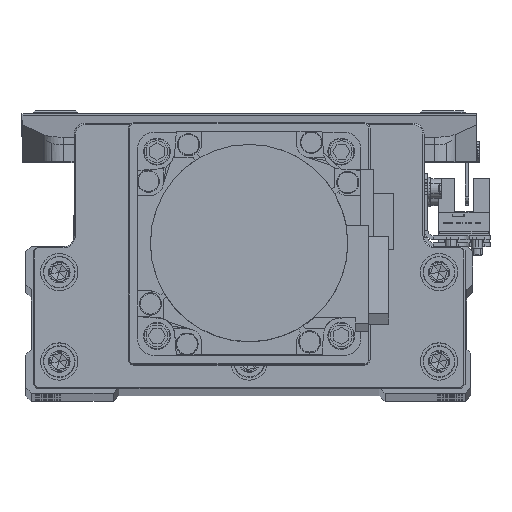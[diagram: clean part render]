
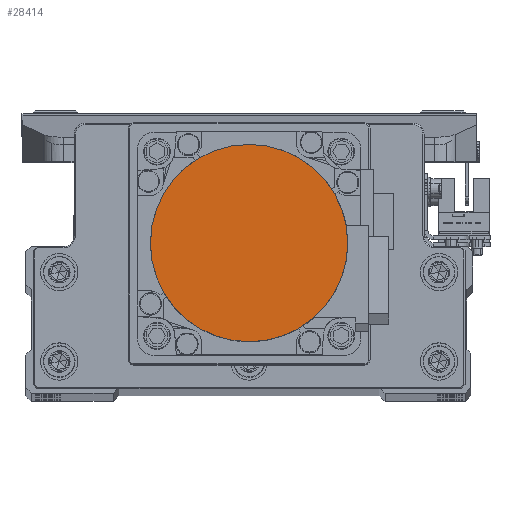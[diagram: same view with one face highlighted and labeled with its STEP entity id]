
A CAD part, top view. The second image highlights one B-rep face of the part: STEP entity #28414.
In plain terms, the highlighted planar face has unit normal (0, 0, 1) as drawn and (0, 0, -1) by its records, which use the part's own axes.
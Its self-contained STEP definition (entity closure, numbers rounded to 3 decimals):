
#626 = FACE_OUTER_BOUND ( 'NONE', #28444, .T. ) ;
#3120 = AXIS2_PLACEMENT_3D ( 'NONE', #29793, #44364, #11616 ) ;
#5494 = VERTEX_POINT ( 'NONE', #9720 ) ;
#6046 = ORIENTED_EDGE ( 'NONE', *, *, #14198, .F. ) ;
#7119 = CARTESIAN_POINT ( 'NONE',  ( 26.5, 0., -109.7 ) ) ;
#9603 = CARTESIAN_POINT ( 'NONE',  ( 0., 0., -109.7 ) ) ;
#9720 = CARTESIAN_POINT ( 'NONE',  ( -26.5, 0., -109.7 ) ) ;
#11616 = DIRECTION ( 'NONE',  ( 1., 0., 0. ) ) ;
#12096 = DIRECTION ( 'NONE',  ( 0., 0., 1. ) ) ;
#14198 = EDGE_CURVE ( 'NONE', #26511, #5494, #32982, .T. ) ;
#15185 = PLANE ( 'NONE',  #3120 ) ;
#18239 = EDGE_CURVE ( 'NONE', #5494, #26511, #18446, .T. ) ;
#18446 = CIRCLE ( 'NONE', #45185, 26.5 ) ;
#24190 = DIRECTION ( 'NONE',  ( 0., 0., 1. ) ) ;
#26511 = VERTEX_POINT ( 'NONE', #7119 ) ;
#26691 = DIRECTION ( 'NONE',  ( 1., 0., 0. ) ) ;
#28414 = ADVANCED_FACE ( 'NONE', ( #626 ), #15185, .F. ) ;
#28444 = EDGE_LOOP ( 'NONE', ( #33059, #6046 ) ) ;
#29793 = CARTESIAN_POINT ( 'NONE',  ( 0., 0., -109.7 ) ) ;
#32982 = CIRCLE ( 'NONE', #39092, 26.5 ) ;
#33059 = ORIENTED_EDGE ( 'NONE', *, *, #18239, .F. ) ;
#38774 = DIRECTION ( 'NONE',  ( -1., 0., 0. ) ) ;
#39092 = AXIS2_PLACEMENT_3D ( 'NONE', #44850, #12096, #26691 ) ;
#44364 = DIRECTION ( 'NONE',  ( 0., 0., 1. ) ) ;
#44850 = CARTESIAN_POINT ( 'NONE',  ( 0., 0., -109.7 ) ) ;
#45185 = AXIS2_PLACEMENT_3D ( 'NONE', #9603, #24190, #38774 ) ;
